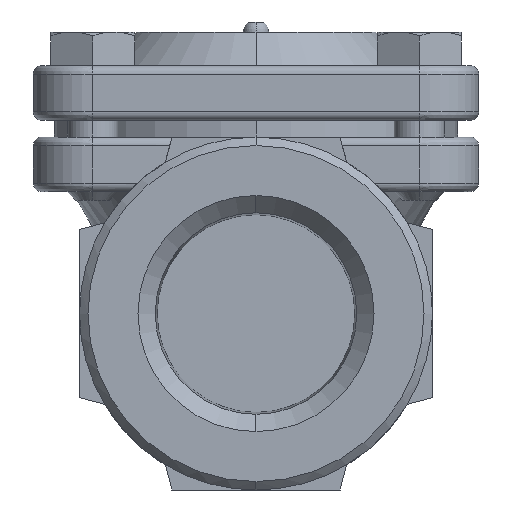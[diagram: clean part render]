
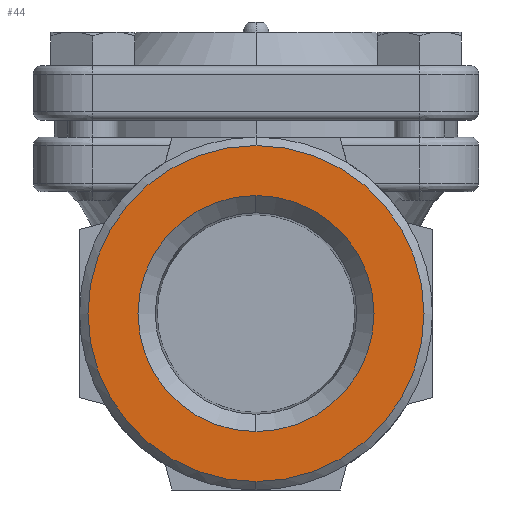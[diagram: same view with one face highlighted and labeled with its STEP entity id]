
A CAD part, left-side view. The second image highlights one B-rep face of the part: STEP entity #44.
In plain terms, the highlighted planar face has unit normal (-1, 0, 0).
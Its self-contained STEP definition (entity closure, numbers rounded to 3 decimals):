
#44=ADVANCED_FACE('',(#313,#314),#312,.F.);
#312=PLANE('',#2641);
#313=FACE_OUTER_BOUND('',#2642,.T.);
#314=FACE_BOUND('',#2643,.T.);
#2638=CARTESIAN_POINT('',(-40.,-41.569,26.));
#2639=DIRECTION('',(1.,0.,0.));
#2640=DIRECTION('',(0.,0.,-1.));
#2641=AXIS2_PLACEMENT_3D('',#2638,#2639,#2640);
#2642=EDGE_LOOP('',(#4554,#4555));
#2643=EDGE_LOOP('',(#4556,#4557));
#4554=ORIENTED_EDGE('',*,*,#5631,.T.);
#4555=ORIENTED_EDGE('',*,*,#5632,.T.);
#4556=ORIENTED_EDGE('',*,*,#5633,.F.);
#4557=ORIENTED_EDGE('',*,*,#5634,.F.);
#5631=EDGE_CURVE('',#6258,#6259,#6260,.T.);
#5632=EDGE_CURVE('',#6259,#6258,#6266,.T.);
#5633=EDGE_CURVE('',#6272,#6273,#6274,.T.);
#5634=EDGE_CURVE('',#6273,#6272,#6280,.T.);
#6258=VERTEX_POINT('',#9803);
#6259=VERTEX_POINT('',#9804);
#6260=CIRCLE('',#9808,20.);
#6266=CIRCLE('',#9812,20.);
#6272=VERTEX_POINT('',#9813);
#6273=VERTEX_POINT('',#9814);
#6274=CIRCLE('',#9818,14.05);
#6280=CIRCLE('',#9822,14.05);
#9803=CARTESIAN_POINT('',(-40.,0.,20.));
#9804=CARTESIAN_POINT('',(-40.,0.,-20.));
#9805=CARTESIAN_POINT('',(-40.,0.,0.));
#9806=DIRECTION('',(-1.,0.,0.));
#9807=DIRECTION('',(0.,0.,1.));
#9808=AXIS2_PLACEMENT_3D('',#9805,#9806,#9807);
#9809=CARTESIAN_POINT('',(-40.,0.,0.));
#9810=DIRECTION('',(-1.,0.,0.));
#9811=DIRECTION('',(0.,0.,1.));
#9812=AXIS2_PLACEMENT_3D('',#9809,#9810,#9811);
#9813=CARTESIAN_POINT('',(-40.,0.,-14.05));
#9814=CARTESIAN_POINT('',(-40.,0.,14.05));
#9815=CARTESIAN_POINT('',(-40.,0.,0.));
#9816=DIRECTION('',(-1.,0.,0.));
#9817=DIRECTION('',(0.,0.,1.));
#9818=AXIS2_PLACEMENT_3D('',#9815,#9816,#9817);
#9819=CARTESIAN_POINT('',(-40.,0.,0.));
#9820=DIRECTION('',(-1.,0.,0.));
#9821=DIRECTION('',(0.,0.,1.));
#9822=AXIS2_PLACEMENT_3D('',#9819,#9820,#9821);
